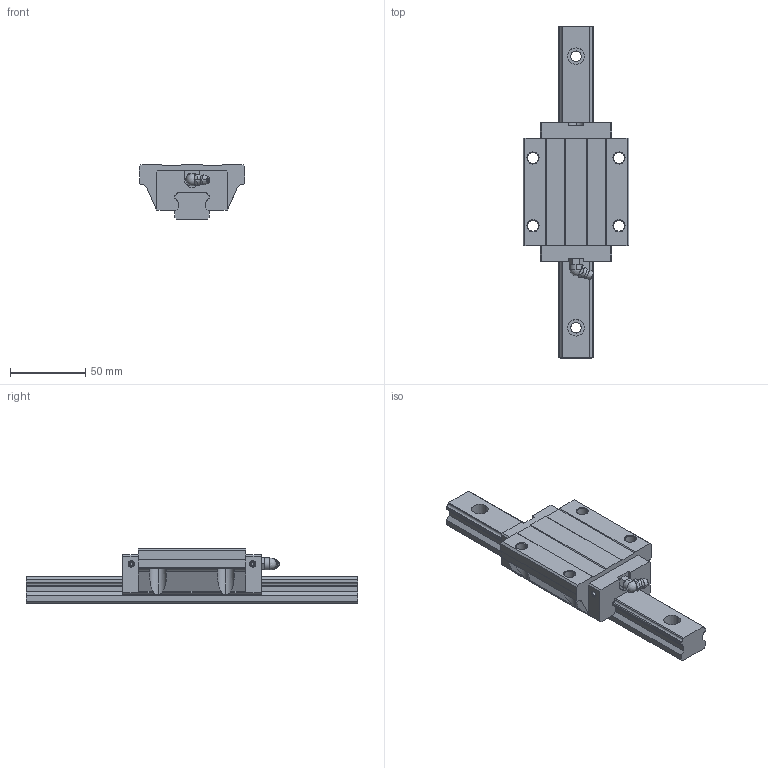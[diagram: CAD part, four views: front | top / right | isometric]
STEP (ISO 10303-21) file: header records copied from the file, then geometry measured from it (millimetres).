
FILE_DESCRIPTION((''),'1');
FILE_NAME(' ',' ',(''),(''),'ACIS Interop R16','Kubotek KeyCreator V6.5.2 (0407)',' ');
FILE_SCHEMA(('CONFIG_CONTROL_DESIGN'));
Length unit declared in the file: millimetre
Products named in the file (3): 1; 2; 3
Bounding box: 70 x 220 x 36 mm (x, y, z)
Volume: 129003.7 mm3; surface area: 43270.8 mm2
Topology: 2 solids, 48 shells, 250 faces, 793 edges, 603 vertices
Faces by surface type: plane 129, cylinder 88, cone 18, torus 10, sphere 3, bspline 2
Entity records: 9152 total; most frequent: CARTESIAN_POINT 1851, DIRECTION 1578, ORIENTED_EDGE 1322, EDGE_CURVE 791, VERTEX_POINT 603, AXIS2_PLACEMENT_3D 558, LINE 462, VECTOR 462
